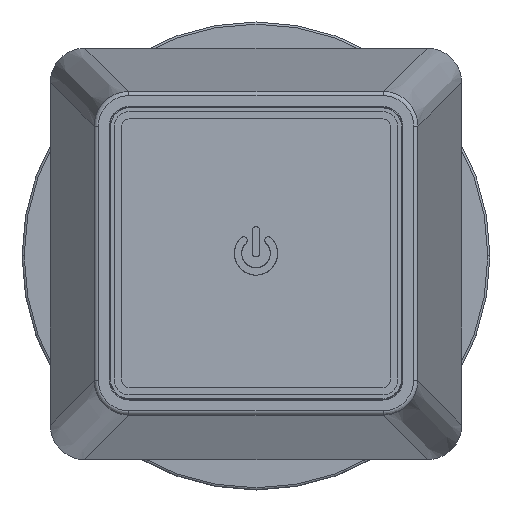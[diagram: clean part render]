
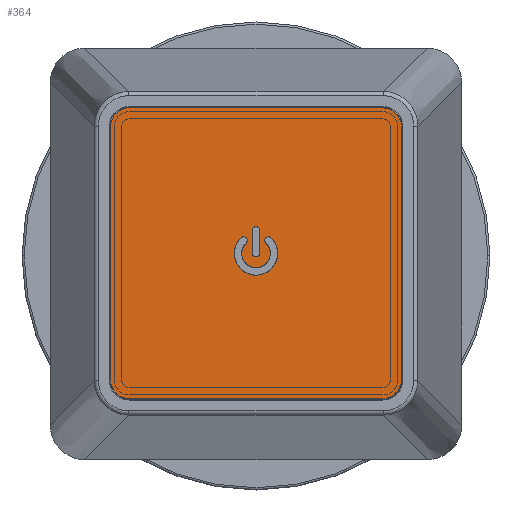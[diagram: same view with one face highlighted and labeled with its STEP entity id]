
A CAD part, top view. The second image highlights one B-rep face of the part: STEP entity #364.
In plain terms, the highlighted planar face has unit normal (0, 0, 1).
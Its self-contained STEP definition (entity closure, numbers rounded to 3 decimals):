
#149=CARTESIAN_POINT('Vertex',(0.85,5.3,1.3)) ;
#152=CARTESIAN_POINT('Axis2P3D Location',(0.,5.3,1.3)) ;
#156=CARTESIAN_POINT('Vertex',(-0.85,5.3,1.3)) ;
#210=CARTESIAN_POINT('Axis2P3D Location',(0.,0.,1.3)) ;
#216=CARTESIAN_POINT('Control Point',(-29.25,-33.55,1.3)) ;
#217=CARTESIAN_POINT('Control Point',(-30.601,-33.55,1.3)) ;
#218=CARTESIAN_POINT('Control Point',(-31.953,-33.021,1.3)) ;
#219=CARTESIAN_POINT('Control Point',(-33.021,-31.953,1.3)) ;
#220=CARTESIAN_POINT('Control Point',(-33.55,-30.601,1.3)) ;
#221=CARTESIAN_POINT('Control Point',(-33.55,-29.25,1.3)) ;
#222=CARTESIAN_POINT('Vertex',(-33.55,-29.25,1.3)) ;
#224=CARTESIAN_POINT('Vertex',(-29.25,-33.55,1.3)) ;
#228=CARTESIAN_POINT('Control Point',(29.25,-33.55,1.3)) ;
#229=CARTESIAN_POINT('Control Point',(17.55,-33.55,1.3)) ;
#230=CARTESIAN_POINT('Control Point',(5.85,-33.55,1.3)) ;
#231=CARTESIAN_POINT('Control Point',(-5.85,-33.55,1.3)) ;
#232=CARTESIAN_POINT('Control Point',(-17.55,-33.55,1.3)) ;
#233=CARTESIAN_POINT('Control Point',(-29.25,-33.55,1.3)) ;
#234=CARTESIAN_POINT('Vertex',(29.25,-33.55,1.3)) ;
#238=CARTESIAN_POINT('Control Point',(33.55,-29.25,1.3)) ;
#239=CARTESIAN_POINT('Control Point',(33.55,-30.601,1.3)) ;
#240=CARTESIAN_POINT('Control Point',(33.021,-31.953,1.3)) ;
#241=CARTESIAN_POINT('Control Point',(31.953,-33.021,1.3)) ;
#242=CARTESIAN_POINT('Control Point',(30.601,-33.55,1.3)) ;
#243=CARTESIAN_POINT('Control Point',(29.25,-33.55,1.3)) ;
#244=CARTESIAN_POINT('Vertex',(33.55,-29.25,1.3)) ;
#248=CARTESIAN_POINT('Control Point',(33.55,29.25,1.3)) ;
#249=CARTESIAN_POINT('Control Point',(33.55,17.55,1.3)) ;
#250=CARTESIAN_POINT('Control Point',(33.55,5.85,1.3)) ;
#251=CARTESIAN_POINT('Control Point',(33.55,-5.85,1.3)) ;
#252=CARTESIAN_POINT('Control Point',(33.55,-17.55,1.3)) ;
#253=CARTESIAN_POINT('Control Point',(33.55,-29.25,1.3)) ;
#254=CARTESIAN_POINT('Vertex',(33.55,29.25,1.3)) ;
#258=CARTESIAN_POINT('Control Point',(29.25,33.55,1.3)) ;
#259=CARTESIAN_POINT('Control Point',(30.601,33.55,1.3)) ;
#260=CARTESIAN_POINT('Control Point',(31.953,33.021,1.3)) ;
#261=CARTESIAN_POINT('Control Point',(33.021,31.953,1.3)) ;
#262=CARTESIAN_POINT('Control Point',(33.55,30.601,1.3)) ;
#263=CARTESIAN_POINT('Control Point',(33.55,29.25,1.3)) ;
#264=CARTESIAN_POINT('Vertex',(29.25,33.55,1.3)) ;
#268=CARTESIAN_POINT('Control Point',(-29.25,33.55,1.3)) ;
#269=CARTESIAN_POINT('Control Point',(-17.55,33.55,1.3)) ;
#270=CARTESIAN_POINT('Control Point',(-5.85,33.55,1.3)) ;
#271=CARTESIAN_POINT('Control Point',(5.85,33.55,1.3)) ;
#272=CARTESIAN_POINT('Control Point',(17.55,33.55,1.3)) ;
#273=CARTESIAN_POINT('Control Point',(29.25,33.55,1.3)) ;
#274=CARTESIAN_POINT('Vertex',(-29.25,33.55,1.3)) ;
#278=CARTESIAN_POINT('Control Point',(-33.55,29.25,1.3)) ;
#279=CARTESIAN_POINT('Control Point',(-33.55,30.601,1.3)) ;
#280=CARTESIAN_POINT('Control Point',(-33.021,31.953,1.3)) ;
#281=CARTESIAN_POINT('Control Point',(-31.953,33.021,1.3)) ;
#282=CARTESIAN_POINT('Control Point',(-30.601,33.55,1.3)) ;
#283=CARTESIAN_POINT('Control Point',(-29.25,33.55,1.3)) ;
#284=CARTESIAN_POINT('Vertex',(-33.55,29.25,1.3)) ;
#288=CARTESIAN_POINT('Control Point',(-33.55,-29.25,1.3)) ;
#289=CARTESIAN_POINT('Control Point',(-33.55,-17.55,1.3)) ;
#290=CARTESIAN_POINT('Control Point',(-33.55,-5.85,1.3)) ;
#291=CARTESIAN_POINT('Control Point',(-33.55,5.85,1.3)) ;
#292=CARTESIAN_POINT('Control Point',(-33.55,17.55,1.3)) ;
#293=CARTESIAN_POINT('Control Point',(-33.55,29.25,1.3)) ;
#305=CARTESIAN_POINT('Axis2P3D Location',(2.85,2.967,1.3)) ;
#309=CARTESIAN_POINT('Vertex',(3.434,3.584,1.3)) ;
#311=CARTESIAN_POINT('Vertex',(2.266,2.349,1.3)) ;
#314=CARTESIAN_POINT('Axis2P3D Location',(0.,-0.05,1.3)) ;
#318=CARTESIAN_POINT('Vertex',(-3.434,3.584,1.3)) ;
#321=CARTESIAN_POINT('Axis2P3D Location',(-2.85,2.967,1.3)) ;
#325=CARTESIAN_POINT('Vertex',(-2.266,2.349,1.3)) ;
#328=CARTESIAN_POINT('Axis2P3D Location',(0.,-0.05,1.3)) ;
#339=CARTESIAN_POINT('Line Origine',(0.85,2.65,1.3)) ;
#343=CARTESIAN_POINT('Vertex',(0.85,0.,1.3)) ;
#346=CARTESIAN_POINT('Axis2P3D Location',(0.,0.,1.3)) ;
#350=CARTESIAN_POINT('Vertex',(-0.85,0.,1.3)) ;
#353=CARTESIAN_POINT('Line Origine',(-0.85,2.65,1.3)) ;
#341=VECTOR('Line Direction',#340,1.) ;
#355=VECTOR('Line Direction',#354,1.) ;
#153=DIRECTION('Axis2P3D Direction',(0.,0.,1.)) ;
#211=DIRECTION('Axis2P3D Direction',(0.,0.,1.)) ;
#212=DIRECTION('Axis2P3D XDirection',(1.,0.,0.)) ;
#306=DIRECTION('Axis2P3D Direction',(0.,0.,1.)) ;
#315=DIRECTION('Axis2P3D Direction',(0.,0.,1.)) ;
#322=DIRECTION('Axis2P3D Direction',(0.,0.,1.)) ;
#329=DIRECTION('Axis2P3D Direction',(0.,0.,1.)) ;
#340=DIRECTION('Vector Direction',(0.,-1.,0.)) ;
#347=DIRECTION('Axis2P3D Direction',(0.,0.,1.)) ;
#354=DIRECTION('Vector Direction',(0.,1.,0.)) ;
#154=AXIS2_PLACEMENT_3D('Circle Axis2P3D',#152,#153,$) ;
#213=AXIS2_PLACEMENT_3D('Plane Axis2P3D',#210,#211,#212) ;
#307=AXIS2_PLACEMENT_3D('Circle Axis2P3D',#305,#306,$) ;
#316=AXIS2_PLACEMENT_3D('Circle Axis2P3D',#314,#315,$) ;
#323=AXIS2_PLACEMENT_3D('Circle Axis2P3D',#321,#322,$) ;
#330=AXIS2_PLACEMENT_3D('Circle Axis2P3D',#328,#329,$) ;
#348=AXIS2_PLACEMENT_3D('Circle Axis2P3D',#346,#347,$) ;
#342=LINE('Line',#339,#341) ;
#356=LINE('Line',#353,#355) ;
#155=CIRCLE('generated circle',#154,0.85) ;
#308=CIRCLE('generated circle',#307,0.85) ;
#317=CIRCLE('generated circle',#316,5.) ;
#324=CIRCLE('generated circle',#323,0.85) ;
#331=CIRCLE('generated circle',#330,3.3) ;
#349=CIRCLE('generated circle',#348,0.85) ;
#214=PLANE('',#213) ;
#338=FACE_BOUND('',#333,.T.) ;
#363=FACE_BOUND('',#358,.T.) ;
#158=EDGE_CURVE('',#150,#157,#155,.T.) ;
#226=EDGE_CURVE('',#223,#225,#215,.F.) ;
#236=EDGE_CURVE('',#225,#235,#227,.F.) ;
#246=EDGE_CURVE('',#235,#245,#237,.F.) ;
#256=EDGE_CURVE('',#245,#255,#247,.F.) ;
#266=EDGE_CURVE('',#255,#265,#257,.F.) ;
#276=EDGE_CURVE('',#265,#275,#267,.F.) ;
#286=EDGE_CURVE('',#275,#285,#277,.F.) ;
#294=EDGE_CURVE('',#285,#223,#287,.F.) ;
#313=EDGE_CURVE('',#310,#312,#308,.T.) ;
#320=EDGE_CURVE('',#319,#310,#317,.T.) ;
#327=EDGE_CURVE('',#326,#319,#324,.T.) ;
#332=EDGE_CURVE('',#312,#326,#331,.F.) ;
#345=EDGE_CURVE('',#344,#150,#342,.F.) ;
#352=EDGE_CURVE('',#351,#344,#349,.T.) ;
#357=EDGE_CURVE('',#157,#351,#356,.F.) ;
#295=EDGE_LOOP('',(#296,#297,#298,#299,#300,#301,#302,#303)) ;
#333=EDGE_LOOP('',(#334,#335,#336,#337)) ;
#358=EDGE_LOOP('',(#359,#360,#361,#362)) ;
#296=ORIENTED_EDGE('',*,*,#226,.T.) ;
#297=ORIENTED_EDGE('',*,*,#236,.T.) ;
#298=ORIENTED_EDGE('',*,*,#246,.T.) ;
#299=ORIENTED_EDGE('',*,*,#256,.T.) ;
#300=ORIENTED_EDGE('',*,*,#266,.T.) ;
#301=ORIENTED_EDGE('',*,*,#276,.T.) ;
#302=ORIENTED_EDGE('',*,*,#286,.T.) ;
#303=ORIENTED_EDGE('',*,*,#294,.T.) ;
#334=ORIENTED_EDGE('',*,*,#313,.F.) ;
#335=ORIENTED_EDGE('',*,*,#320,.F.) ;
#336=ORIENTED_EDGE('',*,*,#327,.F.) ;
#337=ORIENTED_EDGE('',*,*,#332,.F.) ;
#359=ORIENTED_EDGE('',*,*,#158,.F.) ;
#360=ORIENTED_EDGE('',*,*,#345,.F.) ;
#361=ORIENTED_EDGE('',*,*,#352,.F.) ;
#362=ORIENTED_EDGE('',*,*,#357,.F.) ;
#150=VERTEX_POINT('',#149) ;
#157=VERTEX_POINT('',#156) ;
#223=VERTEX_POINT('',#222) ;
#225=VERTEX_POINT('',#224) ;
#235=VERTEX_POINT('',#234) ;
#245=VERTEX_POINT('',#244) ;
#255=VERTEX_POINT('',#254) ;
#265=VERTEX_POINT('',#264) ;
#275=VERTEX_POINT('',#274) ;
#285=VERTEX_POINT('',#284) ;
#310=VERTEX_POINT('',#309) ;
#312=VERTEX_POINT('',#311) ;
#319=VERTEX_POINT('',#318) ;
#326=VERTEX_POINT('',#325) ;
#344=VERTEX_POINT('',#343) ;
#351=VERTEX_POINT('',#350) ;
#364=ADVANCED_FACE('\X2\96F64EF651E04F554F53\X0\',(#304,#338,#363),#214,.T.) ;
#215=B_SPLINE_CURVE_WITH_KNOTS('',5,(#216,#217,#218,#219,#220,#221),.UNSPECIFIED.,.F.,.U.,(6,6),(0.,7.116),.UNSPECIFIED.) ;
#227=B_SPLINE_CURVE_WITH_KNOTS('',5,(#228,#229,#230,#231,#232,#233),.UNSPECIFIED.,.F.,.U.,(6,6),(0.,58.5),.UNSPECIFIED.) ;
#237=B_SPLINE_CURVE_WITH_KNOTS('',5,(#238,#239,#240,#241,#242,#243),.UNSPECIFIED.,.F.,.U.,(6,6),(0.,7.116),.UNSPECIFIED.) ;
#247=B_SPLINE_CURVE_WITH_KNOTS('',5,(#248,#249,#250,#251,#252,#253),.UNSPECIFIED.,.F.,.U.,(6,6),(0.,58.5),.UNSPECIFIED.) ;
#257=B_SPLINE_CURVE_WITH_KNOTS('',5,(#258,#259,#260,#261,#262,#263),.UNSPECIFIED.,.F.,.U.,(6,6),(0.,7.116),.UNSPECIFIED.) ;
#267=B_SPLINE_CURVE_WITH_KNOTS('',5,(#268,#269,#270,#271,#272,#273),.UNSPECIFIED.,.F.,.U.,(6,6),(0.,58.5),.UNSPECIFIED.) ;
#277=B_SPLINE_CURVE_WITH_KNOTS('',5,(#278,#279,#280,#281,#282,#283),.UNSPECIFIED.,.F.,.U.,(6,6),(0.,7.116),.UNSPECIFIED.) ;
#287=B_SPLINE_CURVE_WITH_KNOTS('',5,(#288,#289,#290,#291,#292,#293),.UNSPECIFIED.,.F.,.U.,(6,6),(0.,58.5),.UNSPECIFIED.) ;
#304=FACE_OUTER_BOUND('',#295,.T.) ;
